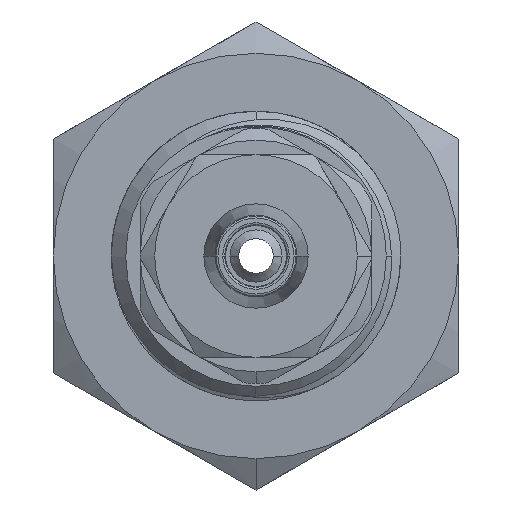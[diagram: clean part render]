
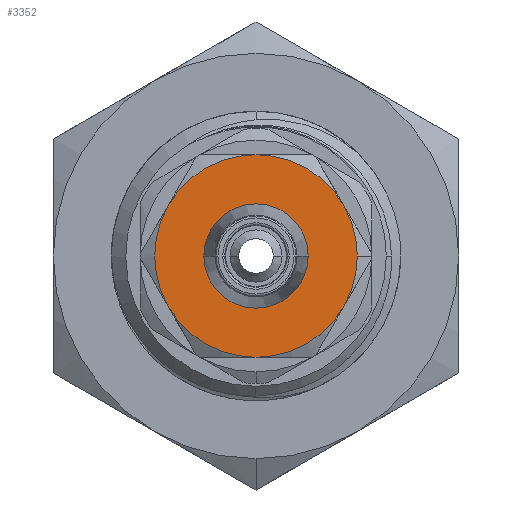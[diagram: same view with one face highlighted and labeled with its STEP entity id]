
A CAD part, front view. The second image highlights one B-rep face of the part: STEP entity #3352.
In plain terms, the highlighted planar face has unit normal (0, -1, 0).
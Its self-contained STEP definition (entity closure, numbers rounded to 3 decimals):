
#92 = CIRCLE ( 'NONE', #379, 3.5 ) ;
#194 = DIRECTION ( 'NONE',  ( 0., -1., 0. ) ) ;
#232 = VERTEX_POINT ( 'NONE', #5437 ) ;
#379 = AXIS2_PLACEMENT_3D ( 'NONE', #3383, #194, #922 ) ;
#528 = CIRCLE ( 'NONE', #4044, 1.65 ) ;
#548 = CARTESIAN_POINT ( 'NONE',  ( 3.031, -13.2, 1.75 ) ) ;
#793 = AXIS2_PLACEMENT_3D ( 'NONE', #5726, #3136, #6354 ) ;
#922 = DIRECTION ( 'NONE',  ( -0.866, 0., -0.5 ) ) ;
#930 = CARTESIAN_POINT ( 'NONE',  ( 3.5, -13.2, 0. ) ) ;
#1046 = CARTESIAN_POINT ( 'NONE',  ( 1.55, -13.2, 0. ) ) ;
#1065 = ORIENTED_EDGE ( 'NONE', *, *, #2222, .T. ) ;
#1092 = DIRECTION ( 'NONE',  ( 0., 1., 0. ) ) ;
#1161 = DIRECTION ( 'NONE',  ( -1., 0., 0. ) ) ;
#1218 = AXIS2_PLACEMENT_3D ( 'NONE', #3220, #5809, #6314 ) ;
#1285 = CARTESIAN_POINT ( 'NONE',  ( 0., -13.2, 0. ) ) ;
#1309 = ORIENTED_EDGE ( 'NONE', *, *, #4969, .T. ) ;
#1364 = VERTEX_POINT ( 'NONE', #5881 ) ;
#1441 = EDGE_CURVE ( 'NONE', #6078, #1364, #92, .T. ) ;
#1462 = ORIENTED_EDGE ( 'NONE', *, *, #7131, .T. ) ;
#1636 = FACE_OUTER_BOUND ( 'NONE', #2787, .T. ) ;
#1721 = DIRECTION ( 'NONE',  ( 1., 0., 0. ) ) ;
#1999 = EDGE_CURVE ( 'NONE', #7716, #6078, #5936, .T. ) ;
#2027 = CARTESIAN_POINT ( 'NONE',  ( 0., -13.2, 0. ) ) ;
#2063 = EDGE_CURVE ( 'NONE', #2791, #232, #528, .T. ) ;
#2222 = EDGE_CURVE ( 'NONE', #2824, #3530, #6220, .T. ) ;
#2352 = DIRECTION ( 'NONE',  ( 0., -1., 0. ) ) ;
#2371 = CARTESIAN_POINT ( 'NONE',  ( 0., -13.2, 0. ) ) ;
#2471 = AXIS2_PLACEMENT_3D ( 'NONE', #2371, #5036, #4952 ) ;
#2531 = CARTESIAN_POINT ( 'NONE',  ( -3.031, -13.2, 1.75 ) ) ;
#2787 = EDGE_LOOP ( 'NONE', ( #4958, #3932, #3469, #1309, #1462, #1065, #4023 ) ) ;
#2791 = VERTEX_POINT ( 'NONE', #5339 ) ;
#2824 = VERTEX_POINT ( 'NONE', #930 ) ;
#3030 = CARTESIAN_POINT ( 'NONE',  ( 0., -13.2, 0. ) ) ;
#3136 = DIRECTION ( 'NONE',  ( 0., -1., 0. ) ) ;
#3220 = CARTESIAN_POINT ( 'NONE',  ( 0., -13.2, 0. ) ) ;
#3352 = ADVANCED_FACE ( 'NONE', ( #4817, #1636 ), #4225, .F. ) ;
#3383 = CARTESIAN_POINT ( 'NONE',  ( 0., -13.2, 0. ) ) ;
#3434 = ORIENTED_EDGE ( 'NONE', *, *, #2063, .T. ) ;
#3469 = ORIENTED_EDGE ( 'NONE', *, *, #1441, .T. ) ;
#3530 = VERTEX_POINT ( 'NONE', #548 ) ;
#3573 = AXIS2_PLACEMENT_3D ( 'NONE', #6344, #1092, #1721 ) ;
#3602 = EDGE_CURVE ( 'NONE', #3530, #6312, #5280, .T. ) ;
#3617 = ORIENTED_EDGE ( 'NONE', *, *, #8144, .T. ) ;
#3665 = CARTESIAN_POINT ( 'NONE',  ( 0., -13.2, 0. ) ) ;
#3867 = DIRECTION ( 'NONE',  ( 0., -1., 0. ) ) ;
#3932 = ORIENTED_EDGE ( 'NONE', *, *, #1999, .T. ) ;
#4018 = CARTESIAN_POINT ( 'NONE',  ( 3.031, -13.2, -1.75 ) ) ;
#4023 = ORIENTED_EDGE ( 'NONE', *, *, #3602, .T. ) ;
#4044 = AXIS2_PLACEMENT_3D ( 'NONE', #3030, #4301, #1161 ) ;
#4193 = CARTESIAN_POINT ( 'NONE',  ( -3.031, -13.2, -1.75 ) ) ;
#4225 = PLANE ( 'NONE',  #5616 ) ;
#4301 = DIRECTION ( 'NONE',  ( 0., 1., 0. ) ) ;
#4513 = VERTEX_POINT ( 'NONE', #4018 ) ;
#4586 = AXIS2_PLACEMENT_3D ( 'NONE', #1285, #3867, #6455 ) ;
#4603 = EDGE_CURVE ( 'NONE', #6312, #7716, #7200, .T. ) ;
#4617 = DIRECTION ( 'NONE',  ( 0., -1., 0. ) ) ;
#4817 = FACE_BOUND ( 'NONE', #7080, .T. ) ;
#4936 = DIRECTION ( 'NONE',  ( -0.866, 0., 0.5 ) ) ;
#4952 = DIRECTION ( 'NONE',  ( 0., 0., -1. ) ) ;
#4958 = ORIENTED_EDGE ( 'NONE', *, *, #4603, .T. ) ;
#4969 = EDGE_CURVE ( 'NONE', #1364, #4513, #6126, .T. ) ;
#5036 = DIRECTION ( 'NONE',  ( 0., -1., 0. ) ) ;
#5280 = CIRCLE ( 'NONE', #1218, 3.5 ) ;
#5339 = CARTESIAN_POINT ( 'NONE',  ( -1.65, -13.2, 0. ) ) ;
#5437 = CARTESIAN_POINT ( 'NONE',  ( 1.65, -13.2, 0. ) ) ;
#5546 = DIRECTION ( 'NONE',  ( 1., 0., 0. ) ) ;
#5616 = AXIS2_PLACEMENT_3D ( 'NONE', #1046, #6813, #5546 ) ;
#5678 = CIRCLE ( 'NONE', #793, 3.5 ) ;
#5726 = CARTESIAN_POINT ( 'NONE',  ( 0., -13.2, 0. ) ) ;
#5809 = DIRECTION ( 'NONE',  ( 0., -1., 0. ) ) ;
#5881 = CARTESIAN_POINT ( 'NONE',  ( 0., -13.2, -3.5 ) ) ;
#5925 = DIRECTION ( 'NONE',  ( 0., 0., 1. ) ) ;
#5936 = CIRCLE ( 'NONE', #7030, 3.5 ) ;
#6078 = VERTEX_POINT ( 'NONE', #4193 ) ;
#6126 = CIRCLE ( 'NONE', #2471, 3.5 ) ;
#6220 = CIRCLE ( 'NONE', #4586, 3.5 ) ;
#6312 = VERTEX_POINT ( 'NONE', #8125 ) ;
#6314 = DIRECTION ( 'NONE',  ( 0.866, 0., 0.5 ) ) ;
#6344 = CARTESIAN_POINT ( 'NONE',  ( 0., -13.2, 0. ) ) ;
#6354 = DIRECTION ( 'NONE',  ( 0.866, 0., -0.5 ) ) ;
#6455 = DIRECTION ( 'NONE',  ( 0.866, 0., -0.5 ) ) ;
#6813 = DIRECTION ( 'NONE',  ( 0., 1., 0. ) ) ;
#7030 = AXIS2_PLACEMENT_3D ( 'NONE', #3665, #2352, #4936 ) ;
#7080 = EDGE_LOOP ( 'NONE', ( #3434, #3617 ) ) ;
#7131 = EDGE_CURVE ( 'NONE', #4513, #2824, #5678, .T. ) ;
#7200 = CIRCLE ( 'NONE', #8289, 3.5 ) ;
#7716 = VERTEX_POINT ( 'NONE', #2531 ) ;
#8039 = CIRCLE ( 'NONE', #3573, 1.65 ) ;
#8125 = CARTESIAN_POINT ( 'NONE',  ( 0., -13.2, 3.5 ) ) ;
#8144 = EDGE_CURVE ( 'NONE', #232, #2791, #8039, .T. ) ;
#8289 = AXIS2_PLACEMENT_3D ( 'NONE', #2027, #4617, #5925 ) ;
